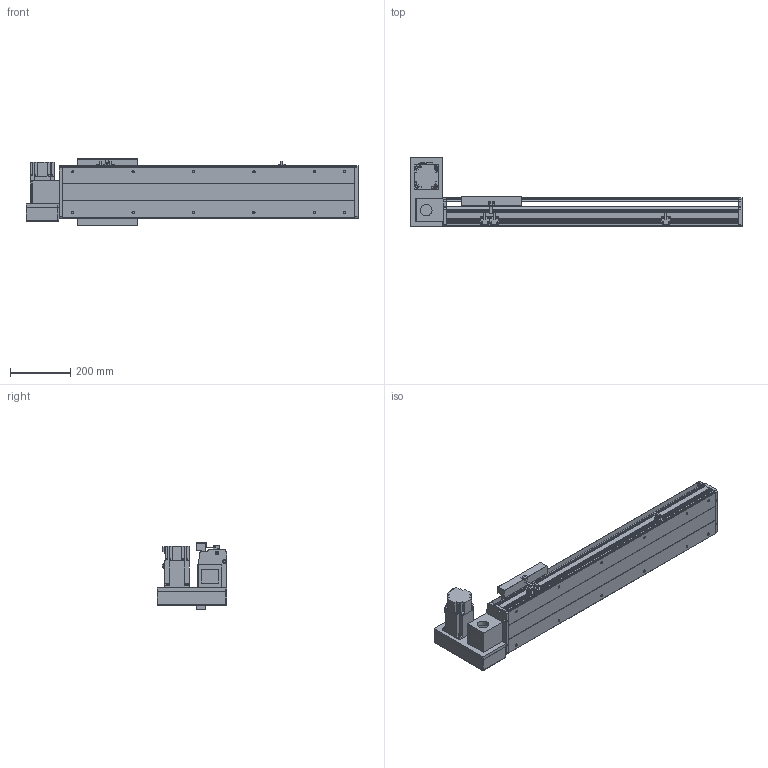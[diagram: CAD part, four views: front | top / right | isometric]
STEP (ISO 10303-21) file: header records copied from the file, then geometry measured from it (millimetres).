
FILE_DESCRIPTION(/* description */ ('STEP AP214'),/* implementation_level */ '2;1');
FILE_NAME(/* name */ 'PBS200-P40-S600-LU-T75-C1-N(0)',/* time_stamp */ '2022-06-11T08:59:08+02:00',/* author */ ('License CC BY-ND 4.0'),/* organization */ ('CADENAS'),/* preprocessor_version */ 'ST-DEVELOPER v18.102',/* originating_system */ 'PARTsolutions',/* authorisation */ ' ');
FILE_SCHEMA (('AUTOMOTIVE_DESIGN {1 0 10303 214 3 1 1}'));
Length unit declared in the file: millimetre
Products named in the file (7): PBS200-P40-S600-LU-T75-C1-N(0); PBS200_sensor; PBS200_plant; PBS200_sliser; T75-p1; PBS200T-LU_motors; PBS200-S600()_body
Assembly tree (8 placements, depth 2):
  PBS200-P40-S600-LU-T75-C1-N(0)
    PBS200_sensor  x3
    PBS200_plant
    PBS200_sliser
    T75-p1
    PBS200T-LU_motors
    PBS200-S600()_body
Bounding box: 1100 x 231 x 221 mm (x, y, z)
Volume: 8739367.7 mm3; surface area: 1425821.2 mm2
Topology: 8 solids, 8 shells, 908 faces, 2354 edges, 1536 vertices
Faces by surface type: plane 570, cylinder 294, cone 44
Full cylindrical faces by diameter (mm): 2.459 x6, 3.242 x4, 4.5 x6, 4.917 x4, 5 x6, 6 x7, 6.6 x8, 6.647 x16, 8 x6, 10 x4, 12 x8, 38 x2, 40 x1, 70 x1
Entity records: 24341 total; most frequent: DIRECTION 4279, CARTESIAN_POINT 4156, ORIENTED_EDGE 3958, EDGE_CURVE 1979, AXIS2_PLACEMENT_3D 1483, VERTEX_POINT 1360, LINE 1313, VECTOR 1313
